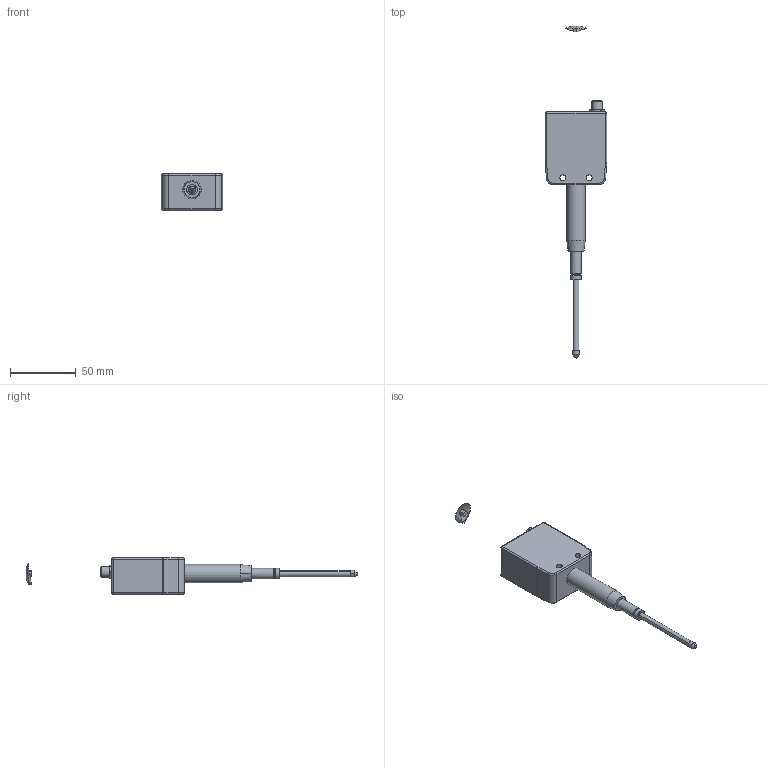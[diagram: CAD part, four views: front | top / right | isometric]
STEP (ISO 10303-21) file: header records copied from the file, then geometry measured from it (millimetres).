
FILE_DESCRIPTION(/* description */ (''),/* implementation_level */ '2;1');
FILE_NAME(/* name */ '50 绝对值测头简化图 20250729.stp',/* time_stamp */ '2025-07-29T10:56:39+08:00',/* author */ (''),/* organization */ (''),/* preprocessor_version */ 'ST-DEVELOPER v16.7',/* originating_system */ 'SIEMENS PLM Software NX 1919',/* authorisation */ '');
FILE_SCHEMA (('AUTOMOTIVE_DESIGN { 1 0 10303 214 3 1 1 1 }'));
Length unit declared in the file: millimetre
Products named in the file (1): jzA6346C5253k0
Bounding box: 46.5 x 251.58 x 27.5 mm (x, y, z)
Volume: 68821.1 mm3; surface area: 15278.2 mm2
Topology: 4 solids, 5 shells, 133 faces, 341 edges, 224 vertices
Faces by surface type: cylinder 67, plane 38, torus 13, sphere 8, cone 5, bspline 2
Full cylindrical faces by diameter (mm): 4.5 x2, 5.5 x2, 8 x4, 14 x1, 16 x2
Entity records: 4759 total; most frequent: CARTESIAN_POINT 1651, DIRECTION 659, ORIENTED_EDGE 638, EDGE_CURVE 319, AXIS2_PLACEMENT_3D 273, VERTEX_POINT 217, EDGE_LOOP 164, CIRCLE 142
